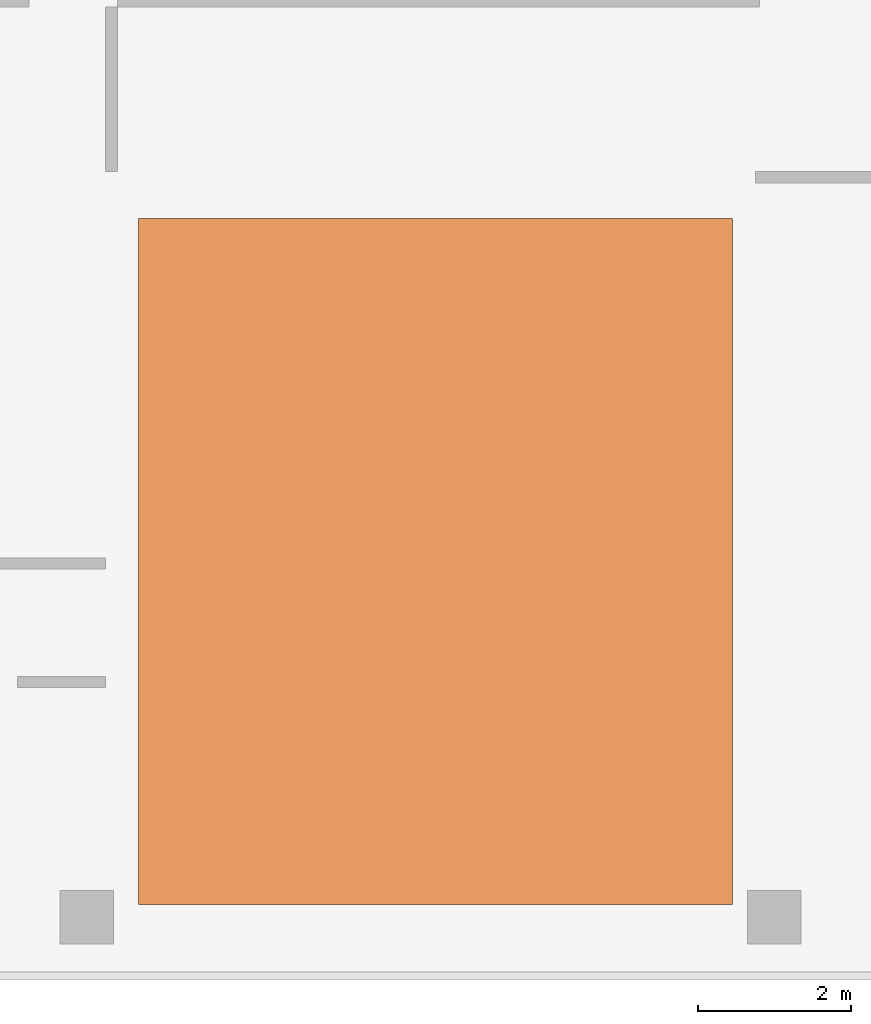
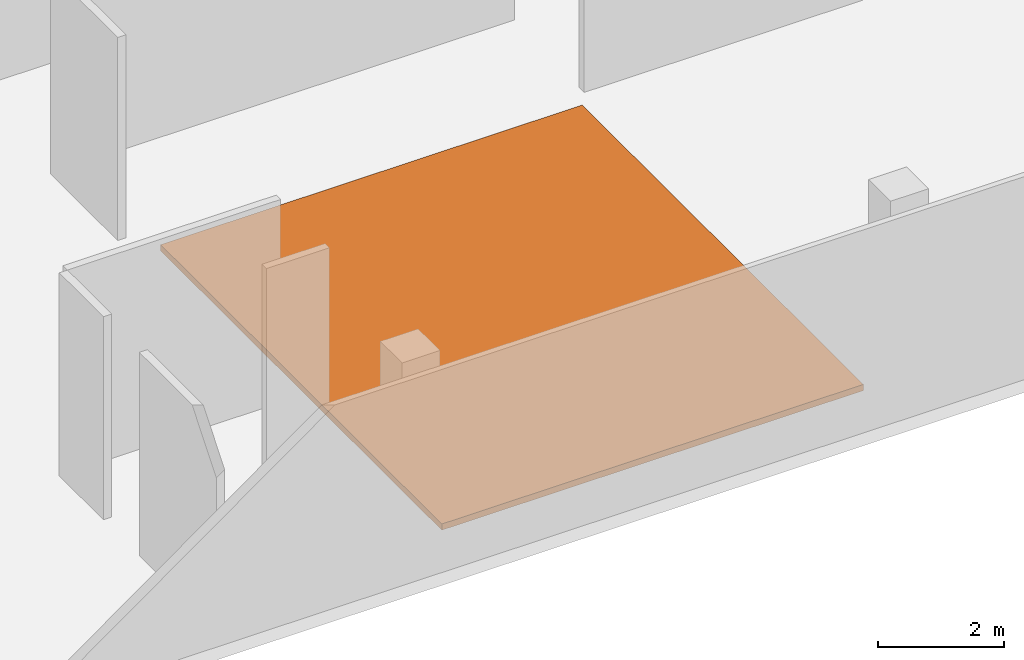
# One storey, part 5 of 5: 1 proxy.
"""IFC4 building model written with IfcOpenShell, lengths in millimetres."""

from ifc_helpers import new_model, si_unit, frame, origin, place, context, project, spatial, triangles, element, save


model = new_model("IFC4")

# Units and contexts
model_context = context("Model", 3, precision=0.001, world=origin())
ifc_project = project(units=[si_unit("LENGTHUNIT", "METRE", prefix="MILLI"), si_unit("AREAUNIT", "SQUARE_METRE"), si_unit("VOLUMEUNIT", "CUBIC_METRE")], contexts=[model_context])

# Site, building, storey
site_placement = place(None, origin())
site = spatial("IfcSite", under=ifc_project, at=site_placement, Name="Site", CompositionType="ELEMENT")
building_placement = place(site_placement, origin())
building = spatial("IfcBuilding", under=site, at=building_placement, Name="INNOCEAN", CompositionType="ELEMENT")
storey_placement = place(building_placement, frame((0.0, 0.0, 76400.0)))
storey = spatial("IfcBuildingStorey", under=building, at=storey_placement, Name="F18", CompositionType="ELEMENT", Elevation=76400.0)

# Proxy
proxy_placement = place(storey_placement, origin())
element("IfcBuildingElementProxy", 1, at=proxy_placement, inside=storey, Name="F18_Garden_F18_001", context=model_context, shape_type="Tessellation", body=[
    triangles([(39913.1474103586, 11501.7316017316, 25.0), (32156.1752988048, 11501.7316017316, 25.0), (32156.1752988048, 11501.7316017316, 145.0), (39913.1474103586, 11501.7316017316, 145.0), (39913.1474103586, 2540.25974025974, 145.0), (39913.1474103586, 2540.25974025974, 25.0), (32156.1752988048, 2540.25974025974, 25.0), (32156.1752988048, 2540.25974025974, 145.0)], [[1, 2, 3], [1, 3, 4], [5, 1, 4], [6, 1, 5], [7, 6, 5], [7, 5, 8], [2, 7, 8], [2, 8, 3], [2, 1, 6], [2, 6, 7], [4, 3, 5], [5, 3, 8]], closed=True),
])

save(model, "model.ifc")
